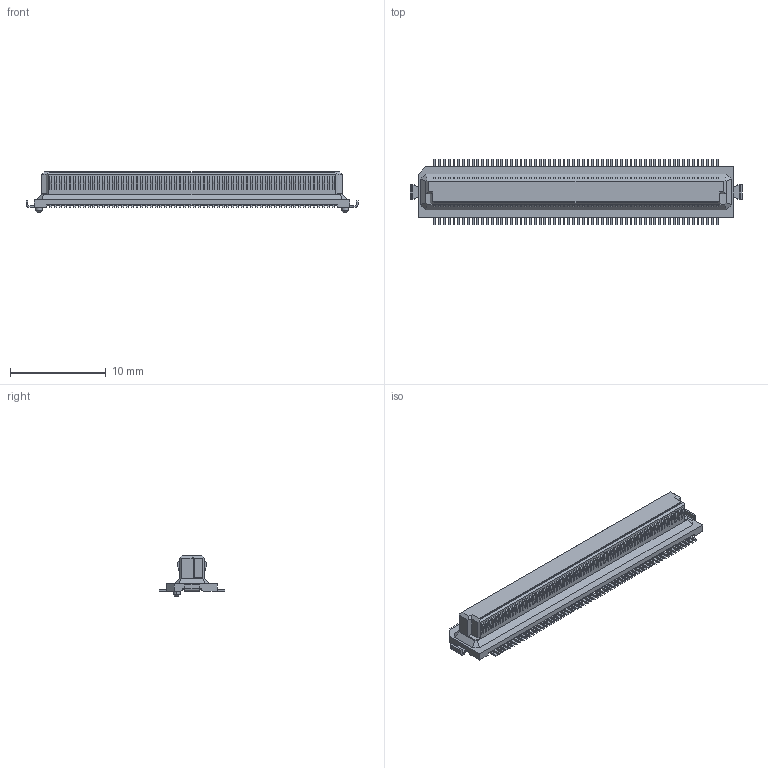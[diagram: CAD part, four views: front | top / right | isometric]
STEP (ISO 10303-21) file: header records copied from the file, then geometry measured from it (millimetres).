
FILE_DESCRIPTION(('Creo Elements/Direct Modeling STEP Export'),'2;1');
FILE_NAME('P3E372_DY11-120S-1-T-H.stp','2022-03-01T11:01:20',(''),(''),'Creo Elements/Direct Modeling STEP processor for AP214 (Solid Model)','Creo Elements/Direct Modeling 20.4A 18-Oct-2021 (C) Parametric Technology GmbH','');
FILE_SCHEMA(('AUTOMOTIVE_DESIGN { 1 0 10303 214 1 1 1 1 }'));
Length unit declared in the file: millimetre
Products named in the file (2): P3E372_DY11-120S-1-T-H
Assembly tree (1 placements, depth 2):
  P3E372_DY11-120S-1-T-H
    P3E372_DY11-120S-1-T-H
Bounding box: 34.7 x 6.8 x 4.23 mm (x, y, z)
Volume: 355 mm3; surface area: 754.2 mm2
Topology: 1 solids, 1 shells, 1814 faces, 4671 edges, 3102 vertices
Faces by surface type: plane 1434, cylinder 376, cone 4
Entity records: 54638 total; most frequent: CARTESIAN_POINT 9574, ORIENTED_EDGE 9342, DIRECTION 9034, EDGE_CURVE 4671, VECTOR 3910, LINE 3910, VERTEX_POINT 3102, AXIS2_PLACEMENT_3D 2562
